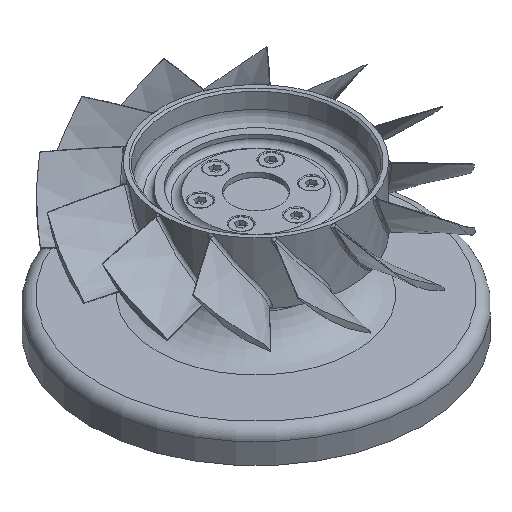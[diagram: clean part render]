
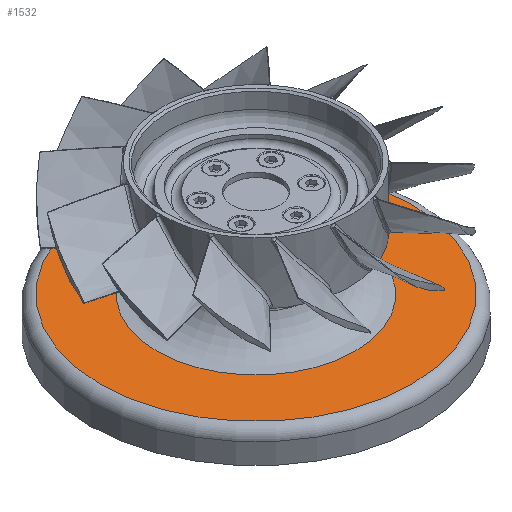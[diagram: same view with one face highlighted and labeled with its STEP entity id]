
A CAD part, isometric view. The second image highlights one B-rep face of the part: STEP entity #1532.
In plain terms, the highlighted planar face has unit normal (0, 0, 1).
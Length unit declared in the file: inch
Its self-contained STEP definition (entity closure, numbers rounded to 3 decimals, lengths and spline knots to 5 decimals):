
#1412=CARTESIAN_POINT('',(-1.88122,0.0,-2.19498));
#1413=VERTEX_POINT('',#1412);
#1414=CARTESIAN_POINT('',(0.,0.,-2.19498));
#1415=DIRECTION('',(0.,0.,-1.0));
#1416=DIRECTION('',(-1.0,0.,0.));
#1417=AXIS2_PLACEMENT_3D('',#1414,#1415,#1416);
#1418=CIRCLE('',#1417,1.88122);
#1419=EDGE_CURVE('',#1413,#1413,#1418,.T.);
#1506=CARTESIAN_POINT('',(-2.9634,0.0,-2.19498));
#1507=VERTEX_POINT('',#1506);
#1508=CARTESIAN_POINT('',(0.,0.,-2.19498));
#1509=DIRECTION('',(0.0,0.0,-1.0));
#1510=DIRECTION('',(-1.0,0.,0.0));
#1511=AXIS2_PLACEMENT_3D('',#1508,#1509,#1510);
#1512=CIRCLE('',#1511,2.9634);
#1513=EDGE_CURVE('',#1507,#1507,#1512,.T.);
#1521=CARTESIAN_POINT('',(3.25974,-3.25974,-2.19498));
#1522=DIRECTION('',(0.0,0.0,-1.0));
#1523=DIRECTION('',(-1.0,0.0,0.0));
#1524=AXIS2_PLACEMENT_3D('',#1521,#1522,#1523);
#1525=PLANE('',#1524);
#1526=ORIENTED_EDGE('',*,*,#1513,.F.);
#1527=EDGE_LOOP('',(#1526));
#1528=FACE_OUTER_BOUND('',#1527,.T.);
#1529=ORIENTED_EDGE('',*,*,#1419,.T.);
#1530=EDGE_LOOP('',(#1529));
#1531=FACE_BOUND('',#1530,.T.);
#1532=ADVANCED_FACE('',(#1528,#1531),#1525,.F.);
